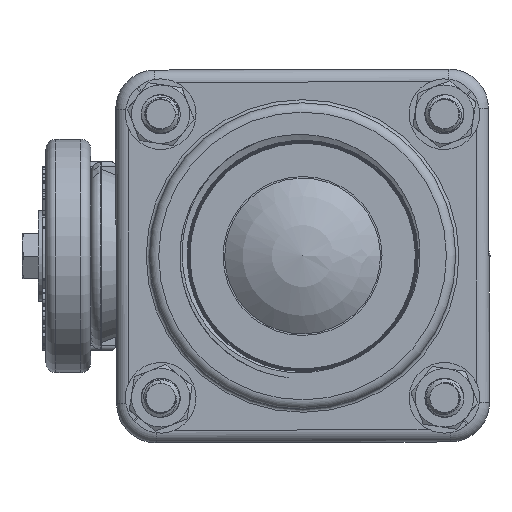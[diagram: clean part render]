
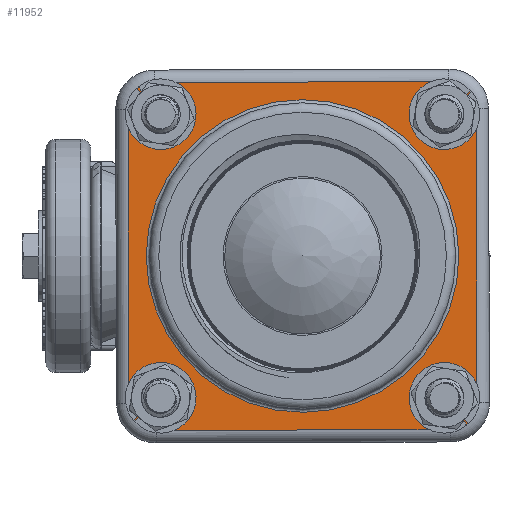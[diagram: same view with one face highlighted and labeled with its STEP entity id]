
A CAD part, left-side view. The second image highlights one B-rep face of the part: STEP entity #11952.
In plain terms, the highlighted planar face has unit normal (-1, 0, 0) as drawn and (0, 0, 1) by its records, which use the part's own axes.
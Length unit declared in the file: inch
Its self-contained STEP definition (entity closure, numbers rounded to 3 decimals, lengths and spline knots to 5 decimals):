
#2653=CIRCLE('',#12645,0.6604);
#2659=CIRCLE('',#12654,0.6604);
#2663=CIRCLE('',#12659,0.6604);
#2667=CIRCLE('',#12666,0.6604);
#2670=CIRCLE('',#12674,3.8227);
#2671=CIRCLE('',#12675,0.4826);
#2672=CIRCLE('',#12676,0.4826);
#2673=CIRCLE('',#12677,0.4826);
#2674=CIRCLE('',#12678,0.4826);
#3655=VERTEX_POINT('',#22218);
#3656=VERTEX_POINT('',#22220);
#3659=VERTEX_POINT('',#22227);
#3660=VERTEX_POINT('',#22232);
#3663=VERTEX_POINT('',#22239);
#3664=VERTEX_POINT('',#22244);
#3667=VERTEX_POINT('',#22251);
#3668=VERTEX_POINT('',#22256);
#3675=VERTEX_POINT('',#22283);
#3676=VERTEX_POINT('',#22285);
#3677=VERTEX_POINT('',#22287);
#3678=VERTEX_POINT('',#22289);
#3679=VERTEX_POINT('',#22291);
#4541=VECTOR('',#14331,1.);
#4544=VECTOR('',#14338,1.);
#4545=VECTOR('',#14357,1.);
#4548=VECTOR('',#14364,1.);
#5241=LINE('',#22228,#4541);
#5244=LINE('',#22235,#4544);
#5245=LINE('',#22252,#4545);
#5248=LINE('',#22259,#4548);
#6422=EDGE_CURVE('',#3655,#3656,#2653,.T.);
#6426=EDGE_CURVE('',#3659,#3655,#5241,.T.);
#6430=EDGE_CURVE('',#3656,#3660,#5244,.T.);
#6432=EDGE_CURVE('',#3663,#3659,#2659,.T.);
#6436=EDGE_CURVE('',#3660,#3664,#2663,.T.);
#6438=EDGE_CURVE('',#3667,#3663,#5245,.T.);
#6442=EDGE_CURVE('',#3664,#3668,#5248,.T.);
#6444=EDGE_CURVE('',#3668,#3667,#2667,.T.);
#6454=EDGE_CURVE('',#3675,#3675,#2670,.T.);
#6455=EDGE_CURVE('',#3676,#3676,#2671,.T.);
#6456=EDGE_CURVE('',#3677,#3677,#2672,.T.);
#6457=EDGE_CURVE('',#3678,#3678,#2673,.T.);
#6458=EDGE_CURVE('',#3679,#3679,#2674,.T.);
#8990=ORIENTED_EDGE('',*,*,#6454,.F.);
#8991=ORIENTED_EDGE('',*,*,#6455,.T.);
#8992=ORIENTED_EDGE('',*,*,#6456,.T.);
#8993=ORIENTED_EDGE('',*,*,#6457,.T.);
#8994=ORIENTED_EDGE('',*,*,#6458,.T.);
#8995=ORIENTED_EDGE('',*,*,#6422,.F.);
#8996=ORIENTED_EDGE('',*,*,#6426,.F.);
#8997=ORIENTED_EDGE('',*,*,#6432,.F.);
#8998=ORIENTED_EDGE('',*,*,#6438,.F.);
#8999=ORIENTED_EDGE('',*,*,#6444,.F.);
#9000=ORIENTED_EDGE('',*,*,#6442,.F.);
#9001=ORIENTED_EDGE('',*,*,#6436,.F.);
#9002=ORIENTED_EDGE('',*,*,#6430,.F.);
#10566=EDGE_LOOP('',(#8990));
#10567=EDGE_LOOP('',(#8991));
#10568=EDGE_LOOP('',(#8992));
#10569=EDGE_LOOP('',(#8993));
#10570=EDGE_LOOP('',(#8994));
#10571=EDGE_LOOP('',(#8995,#8996,#8997,#8998,#8999,#9000,#9001,#9002));
#11291=FACE_BOUND('',#10566,.T.);
#11292=FACE_BOUND('',#10567,.T.);
#11293=FACE_BOUND('',#10568,.T.);
#11294=FACE_BOUND('',#10569,.T.);
#11295=FACE_BOUND('',#10570,.T.);
#11296=FACE_BOUND('',#10571,.T.);
#11952=ADVANCED_FACE('',(#11291,#11292,#11293,#11294,#11295,#11296),#49017,
 .T.);
#12645=AXIS2_PLACEMENT_3D('',#22219,#14321,#14322);
#12654=AXIS2_PLACEMENT_3D('',#22240,#14342,#14343);
#12659=AXIS2_PLACEMENT_3D('',#22247,#14351,#14352);
#12666=AXIS2_PLACEMENT_3D('',#22262,#14368,#14369);
#12673=AXIS2_PLACEMENT_3D('',#22281,#14387,$);
#12674=AXIS2_PLACEMENT_3D('',#22282,#14388,#14389);
#12675=AXIS2_PLACEMENT_3D('',#22284,#14390,#14391);
#12676=AXIS2_PLACEMENT_3D('',#22286,#14392,#14393);
#12677=AXIS2_PLACEMENT_3D('',#22288,#14394,#14395);
#12678=AXIS2_PLACEMENT_3D('',#22290,#14396,#14397);
#14321=DIRECTION('',(0.,0.,-1.));
#14322=DIRECTION('',(-0.467,0.467,0.));
#14331=DIRECTION('',(0.,1.,0.));
#14338=DIRECTION('',(1.,0.,0.));
#14342=DIRECTION('',(0.,0.,-1.));
#14343=DIRECTION('',(-0.467,-0.467,0.));
#14351=DIRECTION('',(0.,0.,-1.));
#14352=DIRECTION('',(0.467,0.467,0.));
#14357=DIRECTION('',(-1.,0.,0.));
#14364=DIRECTION('',(0.,-1.,0.));
#14368=DIRECTION('',(0.,0.,-1.));
#14369=DIRECTION('',(0.467,-0.467,0.));
#14387=DIRECTION('',(0.,0.,1.));
#14388=DIRECTION('',(0.,0.,1.));
#14389=DIRECTION('',(-3.823,0.,0.));
#14390=DIRECTION('',(0.,0.,-1.));
#14391=DIRECTION('',(-0.483,0.,0.));
#14392=DIRECTION('',(0.,0.,-1.));
#14393=DIRECTION('',(-0.483,0.,0.));
#14394=DIRECTION('',(0.,0.,-1.));
#14395=DIRECTION('',(-0.483,0.,0.));
#14396=DIRECTION('',(0.,0.,-1.));
#14397=DIRECTION('',(-0.483,0.,0.));
#22218=CARTESIAN_POINT('',(-4.2545,3.5941,1.5748));
#22219=CARTESIAN_POINT('',(-3.5941,3.5941,1.5748));
#22220=CARTESIAN_POINT('',(-3.5941,4.2545,1.5748));
#22227=CARTESIAN_POINT('',(-4.2545,-3.5941,1.5748));
#22228=CARTESIAN_POINT('',(-4.2545,0.,1.5748));
#22232=CARTESIAN_POINT('',(3.5941,4.2545,1.5748));
#22235=CARTESIAN_POINT('',(0.,4.2545,1.5748));
#22239=CARTESIAN_POINT('',(-3.5941,-4.2545,1.5748));
#22240=CARTESIAN_POINT('',(-3.5941,-3.5941,1.5748));
#22244=CARTESIAN_POINT('',(4.2545,3.5941,1.5748));
#22247=CARTESIAN_POINT('',(3.5941,3.5941,1.5748));
#22251=CARTESIAN_POINT('',(3.5941,-4.2545,1.5748));
#22252=CARTESIAN_POINT('',(0.,-4.2545,1.5748));
#22256=CARTESIAN_POINT('',(4.2545,-3.5941,1.5748));
#22259=CARTESIAN_POINT('',(4.2545,0.,1.5748));
#22262=CARTESIAN_POINT('',(3.5941,-3.5941,1.5748));
#22281=CARTESIAN_POINT('',(0.,0.,
1.5748));
#22282=CARTESIAN_POINT('',(0.,0.,
1.5748));
#22283=CARTESIAN_POINT('',(3.8227,0.,1.5748));
#22284=CARTESIAN_POINT('',(-3.45694,3.4798,1.5748));
#22285=CARTESIAN_POINT('',(-2.97434,3.4798,1.5748));
#22286=CARTESIAN_POINT('',(-3.45694,-3.4798,1.5748));
#22287=CARTESIAN_POINT('',(-2.97434,-3.4798,1.5748));
#22288=CARTESIAN_POINT('',(3.45694,-3.4798,1.5748));
#22289=CARTESIAN_POINT('',(3.93954,-3.4798,1.5748));
#22290=CARTESIAN_POINT('',(3.45694,3.4798,1.5748));
#22291=CARTESIAN_POINT('',(3.93954,3.4798,1.5748));
#49017=PLANE('',#12673);
